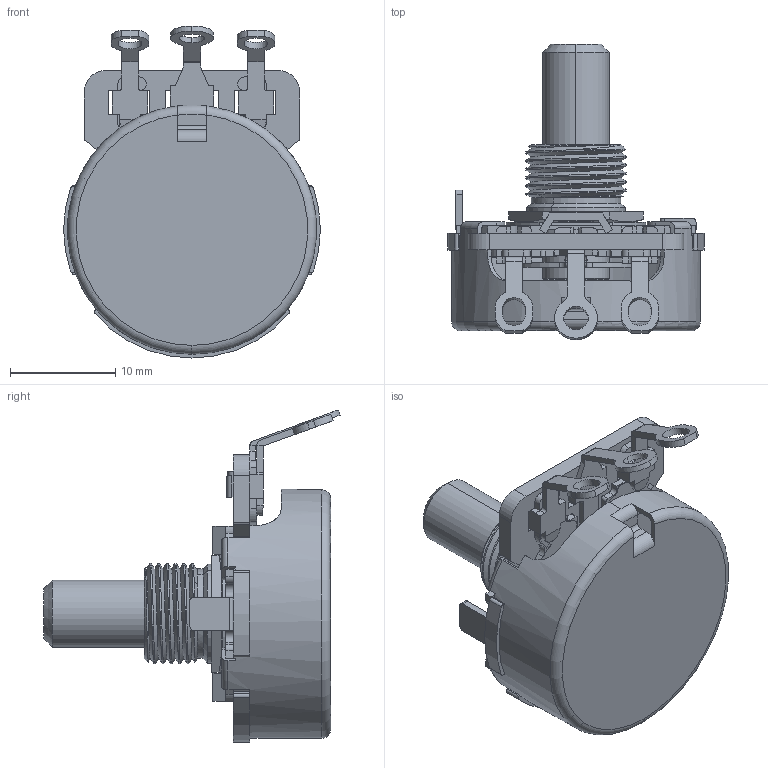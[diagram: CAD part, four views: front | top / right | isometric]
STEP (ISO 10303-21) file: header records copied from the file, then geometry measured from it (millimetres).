
FILE_DESCRIPTION (( 'STEP AP214' ), '1' );
FILE_NAME ('450T220R103A1A1.STEP', '2019-05-24T08:59:36', ( '' ), ( '' ), 'SwSTEP 2.0', 'SolidWorks 2019', '' );
FILE_SCHEMA (( 'AUTOMOTIVE_DESIGN' ));
Length unit declared in the file: millimetre
Products named in the file (10): 450D-17 for T450AEDF; 450B-4; 45C-2T-Left lug; P45Q_Flat Bottom_45Q54 withFenderTradeMark_NewDetentSetting_07102012; 450A-104G; 450F-23 for T450AEDF; T450AEDF(For 104G); 450 element; 450T220R103A1A1; 4S59848
Assembly tree (10 placements, depth 3):
  450T220R103A1A1
    P45Q_Flat Bottom_45Q54 withFenderTradeMark_NewDetentSetting_07102012
    T450AEDF(For 104G)
      450A-104G
      450D-17 for T450AEDF
      450 element
      450F-23 for T450AEDF  x2
    450B-4
    4S59848
    45C-2T-Left lug
Bounding box: 24.33 x 28.08 x 31.47 mm (x, y, z)
Volume: 2636.7 mm3; surface area: 6341.2 mm2
Topology: 9 solids, 9 shells, 657 faces, 1835 edges, 1197 vertices
Faces by surface type: plane 383, cylinder 231, cone 23, torus 18, bspline 2
Entity records: 20544 total; most frequent: CARTESIAN_POINT 4656, ORIENTED_EDGE 3304, DIRECTION 3230, EDGE_CURVE 1652, AXIS2_PLACEMENT_3D 1087, VERTEX_POINT 1080, LINE 1056, VECTOR 1056
